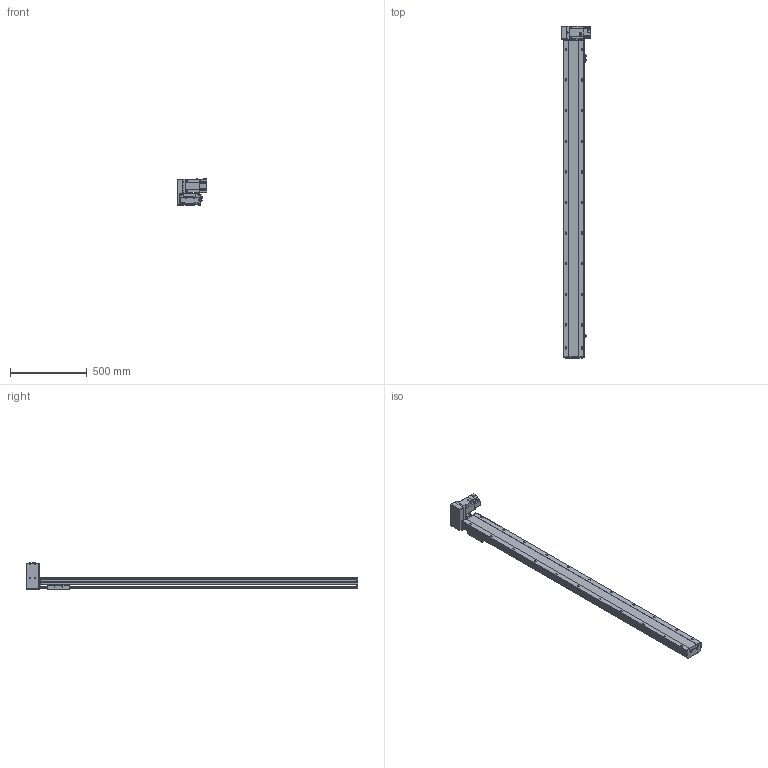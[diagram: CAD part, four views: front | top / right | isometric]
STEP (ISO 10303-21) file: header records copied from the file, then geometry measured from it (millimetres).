
FILE_DESCRIPTION (( 'STEP AP203' ), '1' );
FILE_NAME ('36.STEP', '2020-10-27T10:23:11', ( '' ), ( '' ), 'SwSTEP 2.0', 'SolidWorks 2016', '' );
FILE_SCHEMA (( 'CONFIG_CONTROL_DESIGN' ));
Length unit declared in the file: millimetre
Products named in the file (12): 36; BTB14-LD-04; BTB14-LD-23; FS-08-T75; FS-33-T75; BTB14-LD-菁釱; BTB14-LD-01; BTB14-LD-T75; BTB14-LD-06; BTB14-LD-24; BTB14-LD-HZ; FS-07-T75
Assembly tree (14 placements, depth 2):
  36
    BTB14-LD-菁釱
    BTB14-LD-01
    BTB14-LD-04  x3
    BTB14-LD-06
    BTB14-LD-23  x2
    BTB14-LD-24
    BTB14-LD-HZ
    FS-07-T75
    FS-08-T75
    FS-33-T75
    BTB14-LD-T75
Bounding box: 191.8 x 2168 x 176.1 mm (x, y, z)
Volume: 9937988.2 mm3; surface area: 2010249.8 mm2
Topology: 24 solids, 24 shells, 1834 faces, 4827 edges, 3088 vertices
Faces by surface type: plane 1033, cylinder 522, cone 140, bspline 127, torus 12
Entity records: 54160 total; most frequent: CARTESIAN_POINT 16623, ORIENTED_EDGE 7544, DIRECTION 7310, EDGE_CURVE 3772, LINE 2528, VECTOR 2528, VERTEX_POINT 2466, AXIS2_PLACEMENT_3D 2391
